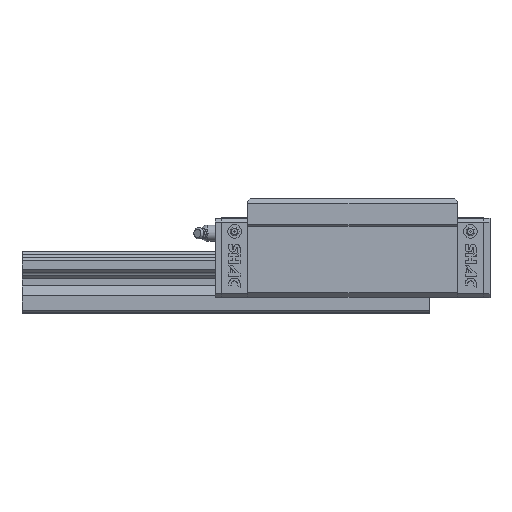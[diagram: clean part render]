
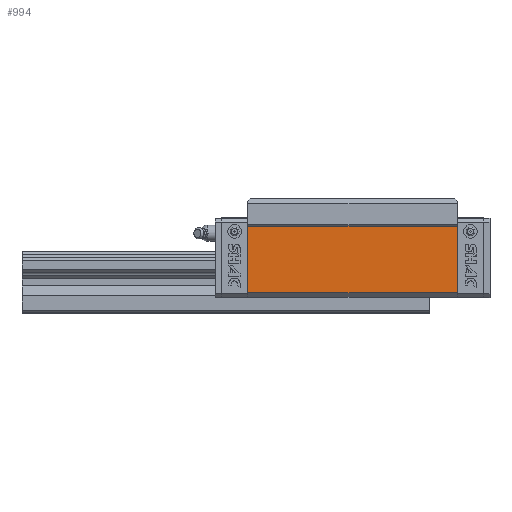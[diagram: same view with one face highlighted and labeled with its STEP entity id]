
A CAD part, top view. The second image highlights one B-rep face of the part: STEP entity #994.
In plain terms, the highlighted planar face has unit normal (0, 0, 1).
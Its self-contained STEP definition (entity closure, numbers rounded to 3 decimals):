
#994 = ADVANCED_FACE( '', ( #2198 ), #2199, .F. );
#2198 = FACE_OUTER_BOUND( '', #3754, .T. );
#2199 = PLANE( '', #3755 );
#3754 = EDGE_LOOP( '', ( #6146, #6147, #6148, #6149 ) );
#3755 = AXIS2_PLACEMENT_3D( '', #6150, #6151, #6152 );
#6146 = ORIENTED_EDGE( '', *, *, #9715, .T. );
#6147 = ORIENTED_EDGE( '', *, *, #9830, .F. );
#6148 = ORIENTED_EDGE( '', *, *, #9235, .F. );
#6149 = ORIENTED_EDGE( '', *, *, #9047, .T. );
#6150 = CARTESIAN_POINT( '', ( 64.4, 53.336, 42.336 ) );
#6151 = DIRECTION( '', ( 0., 0., -1. ) );
#6152 = DIRECTION( '', ( -1., 0., 0. ) );
#9047 = EDGE_CURVE( '', #10725, #10723, #10726, .T. );
#9235 = EDGE_CURVE( '', #10725, #11057, #11058, .T. );
#9715 = EDGE_CURVE( '', #10723, #11859, #11861, .T. );
#9830 = EDGE_CURVE( '', #11057, #11859, #12043, .T. );
#10723 = VERTEX_POINT( '', #13196 );
#10725 = VERTEX_POINT( '', #13199 );
#10726 = LINE( '', #13200, #13201 );
#11057 = VERTEX_POINT( '', #13682 );
#11058 = LINE( '', #13683, #13684 );
#11859 = VERTEX_POINT( '', #14865 );
#11861 = LINE( '', #14868, #14869 );
#12043 = LINE( '', #15124, #15125 );
#13196 = CARTESIAN_POINT( '', ( -64.4, 53.336, 42.336 ) );
#13199 = CARTESIAN_POINT( '', ( 64.4, 53.336, 42.336 ) );
#13200 = CARTESIAN_POINT( '', ( 64.4, 53.336, 42.336 ) );
#13201 = VECTOR( '', #16796, 1000. );
#13682 = CARTESIAN_POINT( '', ( 64.4, 12.525, 42.336 ) );
#13683 = CARTESIAN_POINT( '', ( 64.4, 53.336, 42.336 ) );
#13684 = VECTOR( '', #16984, 1000. );
#14865 = CARTESIAN_POINT( '', ( -64.4, 12.525, 42.336 ) );
#14868 = CARTESIAN_POINT( '', ( -64.4, 53.336, 42.336 ) );
#14869 = VECTOR( '', #17480, 1000. );
#15124 = CARTESIAN_POINT( '', ( 64.4, 12.525, 42.336 ) );
#15125 = VECTOR( '', #17599, 1000. );
#16796 = DIRECTION( '', ( -1., 0., 0. ) );
#16984 = DIRECTION( '', ( 0., -1., 0. ) );
#17480 = DIRECTION( '', ( 0., -1., 0. ) );
#17599 = DIRECTION( '', ( -1., 0., 0. ) );
